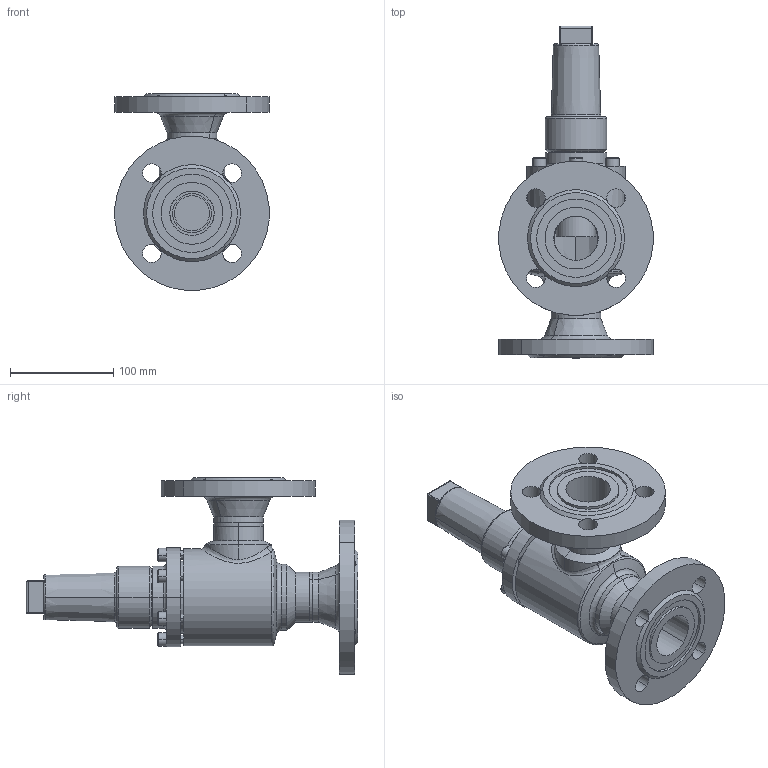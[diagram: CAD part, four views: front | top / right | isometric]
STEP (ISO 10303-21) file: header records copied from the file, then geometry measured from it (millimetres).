
FILE_DESCRIPTION (( 'STEP AP214' ), '1' );
FILE_NAME ('AVR26420D14-DN040_DIN-FL-N_PS40.STEP', '2006-04-27T13:48:37', ( 'Herr Grams' ), ( 'AWP GmbH' ), 'SwSTEP 2.0', 'SolidWorks 2002296', '' );
FILE_SCHEMA (( 'AUTOMOTIVE_DESIGN' ));
Length unit declared in the file: millimetre
Products named in the file (10): AVR26420D14-DN040_DIN-FL-N_PS40; AVR26300E15_Deck+Schr-DN40-50_Standard; Deckel26300E15-DN40-50_Standard; Zylinderschraube-DIN912_M 8x 25; Gehäuse-kpl16420-DN040_DIN_PS40_Standard; bead16420-Geh-040-1_Standard; bead16420-Geh-040-2_Standard; Gehäuse16400-DN040_Standard; Flansch-DIN2635-Nut_PS40_DIN-Flansch-DN040_PS40-Nut; Kappe16402_DN040-65_Standard
Assembly tree (15 placements, depth 3):
  AVR26420D14-DN040_DIN-FL-N_PS40
    AVR26300E15_Deck+Schr-DN40-50_Standard
      Deckel26300E15-DN40-50_Standard
      Zylinderschraube-DIN912_M 8x 25  x6
    Kappe16402_DN040-65_Standard
    Gehäuse-kpl16420-DN040_DIN_PS40_Standard
      Gehäuse16400-DN040_Standard
      Flansch-DIN2635-Nut_PS40_DIN-Flansch-DN040_PS40-Nut  x2
      bead16420-Geh-040-1_Standard
      bead16420-Geh-040-2_Standard
Bounding box: 149.43 x 322 x 190.71 mm (x, y, z)
Volume: 1252270.6 mm3; surface area: 253327.3 mm2
Topology: 13 solids, 13 shells, 331 faces, 757 edges, 474 vertices
Faces by surface type: cylinder 129, plane 105, cone 55, torus 31, bspline 11
Entity records: 18586 total; most frequent: CARTESIAN_POINT 13051, DIRECTION 1077, ORIENTED_EDGE 970, EDGE_CURVE 485, AXIS2_PLACEMENT_3D 459, VERTEX_POINT 302, EDGE_LOOP 251, CIRCLE 241
